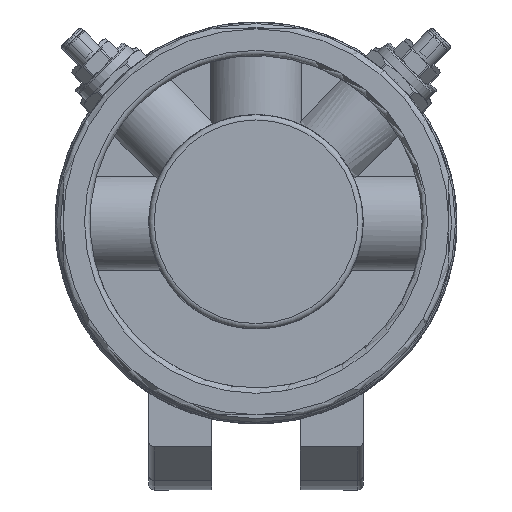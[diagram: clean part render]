
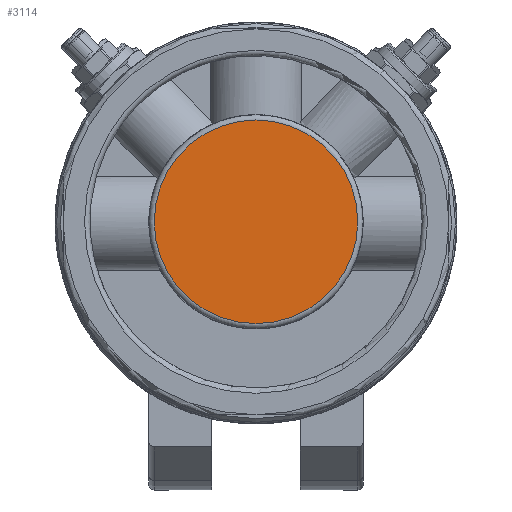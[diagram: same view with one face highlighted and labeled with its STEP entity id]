
A CAD part, top view. The second image highlights one B-rep face of the part: STEP entity #3114.
In plain terms, the highlighted planar face has unit normal (0, 0, 1).
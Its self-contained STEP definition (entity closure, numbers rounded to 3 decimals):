
#2803=CARTESIAN_POINT('',(19.,0.,145.5));
#2804=VERTEX_POINT('',#2803);
#2805=CARTESIAN_POINT('',(0.,0.,145.5));
#2806=DIRECTION('',(0.0,0.0,-1.0));
#2807=DIRECTION('',(-1.0,0.0,0.0));
#2808=AXIS2_PLACEMENT_3D('',#2805,#2806,#2807);
#2809=CIRCLE('',#2808,19.0);
#2810=EDGE_CURVE('',#2804,#2804,#2809,.T.);
#3106=CARTESIAN_POINT('',(0.,0.,145.5));
#3107=DIRECTION('',(0.0,0.0,-1.0));
#3108=DIRECTION('',(-1.0,0.0,0.0));
#3109=AXIS2_PLACEMENT_3D('',#3106,#3107,#3108);
#3110=PLANE('',#3109);
#3111=ORIENTED_EDGE('',*,*,#2810,.F.);
#3112=EDGE_LOOP('',(#3111));
#3113=FACE_OUTER_BOUND('',#3112,.T.);
#3114=ADVANCED_FACE('',(#3113),#3110,.F.);
